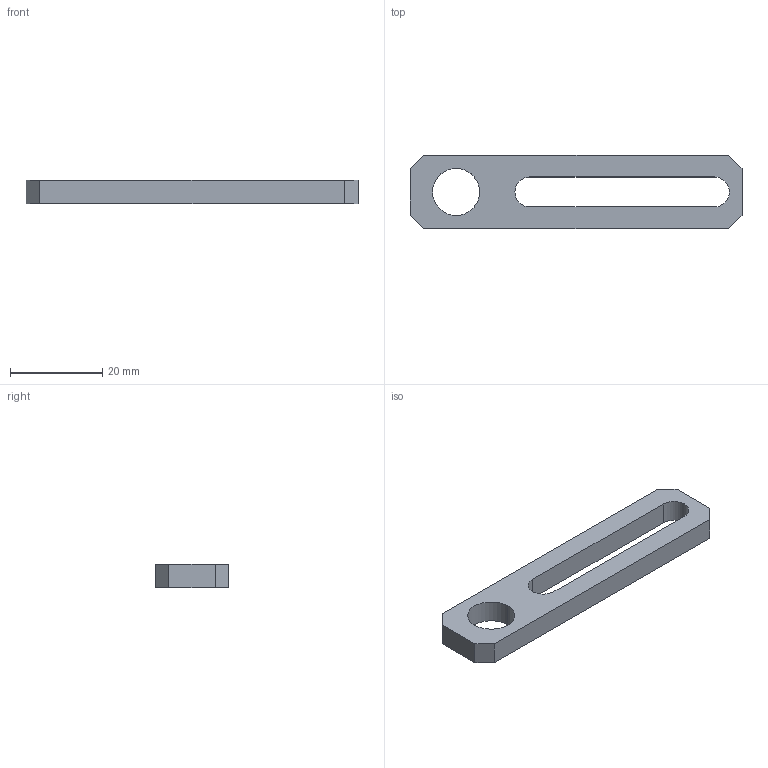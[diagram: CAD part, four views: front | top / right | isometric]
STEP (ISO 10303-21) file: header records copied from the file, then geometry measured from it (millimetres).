
FILE_DESCRIPTION (( 'STEP AP214' ), '1' );
FILE_NAME ('SCF3-40M12.STEP', '2019-11-11T00:46:29', ( '微软用户' ), ( '微软中国' ), 'SwSTEP 2.0', 'SolidWorks 2016', '' );
FILE_SCHEMA (( 'AUTOMOTIVE_DESIGN' ));
Length unit declared in the file: millimetre
Products named in the file (1): SCF3-40M12
Bounding box: 72 x 16 x 5 mm (x, y, z)
Volume: 3795.5 mm3; surface area: 3025.4 mm2
Topology: 1 solids, 1 shells, 17 faces, 45 edges, 30 vertices
Faces by surface type: plane 12, cylinder 5
Entity records: 571 total; most frequent: CARTESIAN_POINT 93, DIRECTION 91, ORIENTED_EDGE 90, EDGE_CURVE 45, VECTOR 35, LINE 35, VERTEX_POINT 30, AXIS2_PLACEMENT_3D 28
